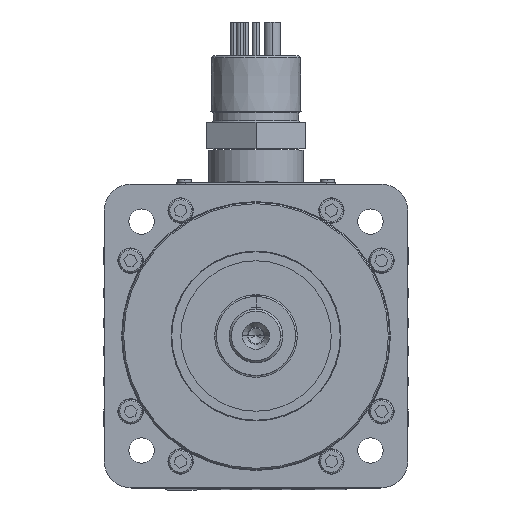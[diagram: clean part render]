
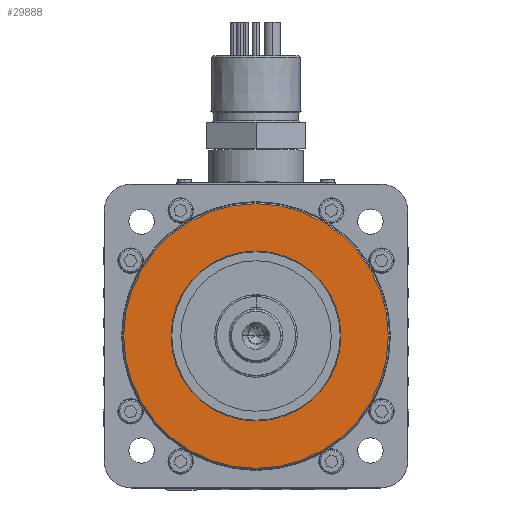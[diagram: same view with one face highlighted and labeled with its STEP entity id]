
A CAD part, top view. The second image highlights one B-rep face of the part: STEP entity #29888.
In plain terms, the highlighted planar face has unit normal (0, 0, 1).
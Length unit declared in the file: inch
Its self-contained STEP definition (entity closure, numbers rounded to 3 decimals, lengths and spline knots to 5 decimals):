
#34 = CARTESIAN_POINT ( 'NONE',  ( 0., 0., 0. ) ) ;
#35 = DIRECTION ( 'NONE',  ( 0., 0., 1. ) ) ;
#36 = DIRECTION ( 'NONE',  ( 1., 0., 0. ) ) ;
#43 = CARTESIAN_POINT ( 'NONE',  ( 0., 0., 0. ) ) ;
#44 = DIRECTION ( 'NONE',  ( 0., 0., 1. ) ) ;
#45 = DIRECTION ( 'NONE',  ( 1., 0., 0. ) ) ;
#20643 = CARTESIAN_POINT ( 'NONE',  ( 1.8501, 0., 0. ) ) ;
#20645 = CARTESIAN_POINT ( 'NONE',  ( -1.8501, 0., 0. ) ) ;
#20657 = CARTESIAN_POINT ( 'NONE',  ( -1.188, 0., 0. ) ) ;
#20659 = CARTESIAN_POINT ( 'NONE',  ( 1.188, 0., 0. ) ) ;
#29888 = ADVANCED_FACE ( 'NONE', ( #75422, #75423 ), #75424, .F. ) ;
#29914 = EDGE_CURVE ( 'NONE', #37925, #37926, #69415, .T. ) ;
#29915 = EDGE_CURVE ( 'NONE', #37933, #37934, #69418, .T. ) ;
#30332 = EDGE_CURVE ( 'NONE', #37926, #37925, #69871, .T. ) ;
#30335 = EDGE_CURVE ( 'NONE', #37934, #37933, #69877, .T. ) ;
#37874 = EDGE_LOOP ( 'NONE', ( #38757, #38758 ) ) ;
#37876 = EDGE_LOOP ( 'NONE', ( #38755, #38756 ) ) ;
#37925 = VERTEX_POINT ( 'NONE', #20643 ) ;
#37926 = VERTEX_POINT ( 'NONE', #20645 ) ;
#37933 = VERTEX_POINT ( 'NONE', #20657 ) ;
#37934 = VERTEX_POINT ( 'NONE', #20659 ) ;
#38755 = ORIENTED_EDGE ( 'NONE', *, *, #30335, .F. ) ;
#38756 = ORIENTED_EDGE ( 'NONE', *, *, #29915, .F. ) ;
#38757 = ORIENTED_EDGE ( 'NONE', *, *, #30332, .T. ) ;
#38758 = ORIENTED_EDGE ( 'NONE', *, *, #29914, .T. ) ;
#69375 = AXIS2_PLACEMENT_3D ( 'NONE', #75419, #75426, #75427 ) ;
#69415 = CIRCLE ( 'NONE', #69421, 1.8501 ) ;
#69418 = CIRCLE ( 'NONE', #69423, 1.188 ) ;
#69421 = AXIS2_PLACEMENT_3D ( 'NONE', #75513, #75514, #75515 ) ;
#69423 = AXIS2_PLACEMENT_3D ( 'NONE', #75517, #75518, #75519 ) ;
#69871 = CIRCLE ( 'NONE', #69874, 1.8501 ) ;
#69874 = AXIS2_PLACEMENT_3D ( 'NONE', #34, #35, #36 ) ;
#69877 = CIRCLE ( 'NONE', #69880, 1.188 ) ;
#69880 = AXIS2_PLACEMENT_3D ( 'NONE', #43, #44, #45 ) ;
#75419 = CARTESIAN_POINT ( 'NONE',  ( 0., 1.188, 0. ) ) ;
#75422 = FACE_BOUND ( 'NONE', #37876, .T. ) ;
#75423 = FACE_OUTER_BOUND ( 'NONE', #37874, .T. ) ;
#75424 = PLANE ( 'NONE',  #69375 ) ;
#75426 = DIRECTION ( 'NONE',  ( 0., 0., -1. ) ) ;
#75427 = DIRECTION ( 'NONE',  ( -1., 0., 0. ) ) ;
#75513 = CARTESIAN_POINT ( 'NONE',  ( 0., 0., 0. ) ) ;
#75514 = DIRECTION ( 'NONE',  ( 0., 0., 1. ) ) ;
#75515 = DIRECTION ( 'NONE',  ( 1., 0., 0. ) ) ;
#75517 = CARTESIAN_POINT ( 'NONE',  ( 0., 0., 0. ) ) ;
#75518 = DIRECTION ( 'NONE',  ( 0., 0., 1. ) ) ;
#75519 = DIRECTION ( 'NONE',  ( 1., 0., 0. ) ) ;
